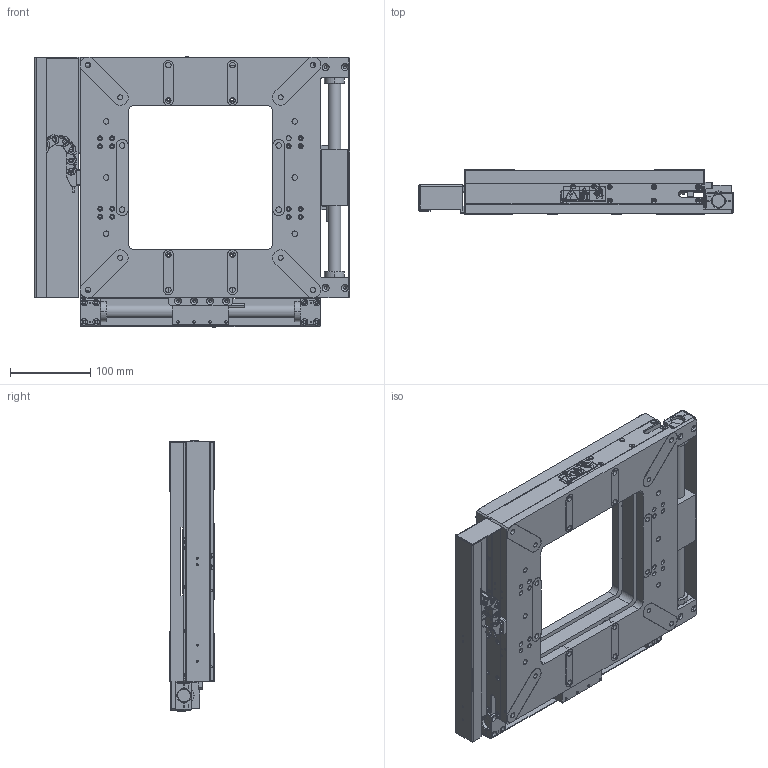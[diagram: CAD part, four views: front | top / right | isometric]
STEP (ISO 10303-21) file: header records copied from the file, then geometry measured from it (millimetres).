
FILE_DESCRIPTION (( 'STEP AP203' ), '1' );
FILE_NAME ('PLE-300-160-S160-EC0001 中空XY轴精密位移模组.(商用3D档).STEP', '2025-05-15T13:25:22', ( '' ), ( '' ), 'SwSTEP 2.0', 'SolidWorks 2022', '' );
FILE_SCHEMA (( 'CONFIG_CONTROL_DESIGN' ));
Products named in the file (1): PLE-300-160-S160-EC0001 中空XY轴精密位移模组.(商用3D档)
Bounding box: 393 x 55 x 336.69 mm (x, y, z)
Surface area: 645506.7 mm2 (no closed solid volume)
Topology: 0 solids, 145 shells, 1931 faces, 10151 edges, 8218 vertices
Faces by surface type: plane 1036, cylinder 722, cone 122, bspline 49, torus 2
Entity records: 104098 total; most frequent: CARTESIAN_POINT 25575, DIRECTION 16077, ORIENTED_EDGE 13873, EDGE_CURVE 10151, VERTEX_POINT 8218, VECTOR 6041, LINE 6041, AXIS2_PLACEMENT_3D 5018
